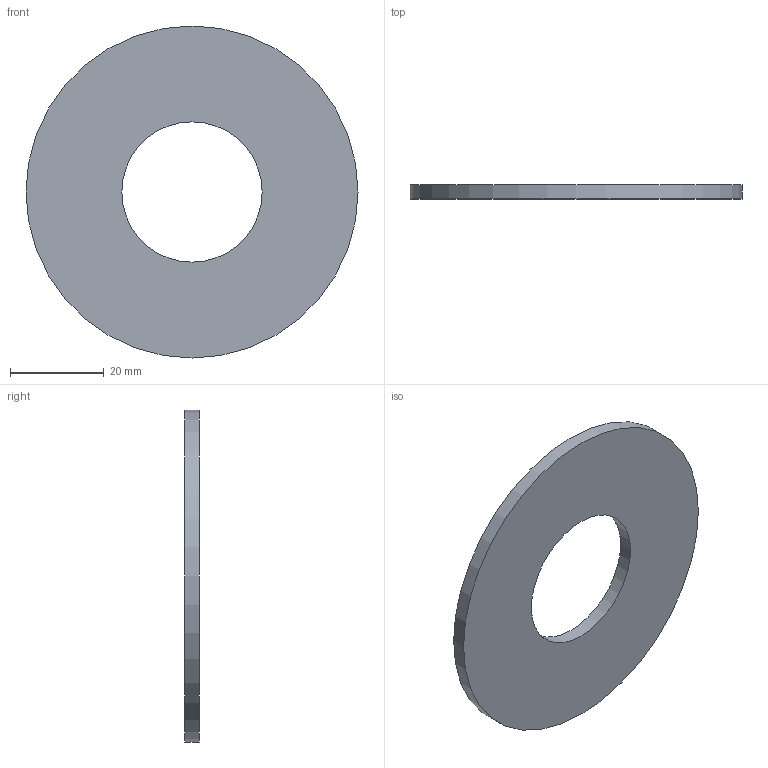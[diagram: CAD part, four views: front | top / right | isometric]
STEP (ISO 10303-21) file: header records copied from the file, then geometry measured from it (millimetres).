
FILE_DESCRIPTION(/* description */ ('Unknown'),/* implementation_level */ '2;1');
FILE_NAME(/* name */ 'GUA.032B',/* time_stamp */ '2021-04-01T09:59:36+02:00',/* author */ ('Unknown'),/* organization */ ('Unknown'),/* preprocessor_version */ 'ST-DEVELOPER v16.7',/* originating_system */ 'Solid Edge',/* authorisation */ 'Unknown');
FILE_SCHEMA (('AUTOMOTIVE_DESIGN {1 0 10303 214 3 1 1}'));
Length unit declared in the file: millimetre
Products named in the file (1): GUA.032B
Bounding box: 71 x 3 x 71 mm (x, y, z)
Volume: 9757 mm3; surface area: 7456.6 mm2
Topology: 1 solids, 1 shells, 4 faces, 6 edges, 4 vertices
Faces by surface type: cylinder 2, plane 2
Full cylindrical faces by diameter (mm): 30 x1, 71 x1
Entity records: 118 total; most frequent: DIRECTION 18, CARTESIAN_POINT 13, AXIS2_PLACEMENT_3D 9, ORIENTED_EDGE 8, EDGE_LOOP 8, FACE_BOUND 8, EDGE_CURVE 4, VERTEX_POINT 4
